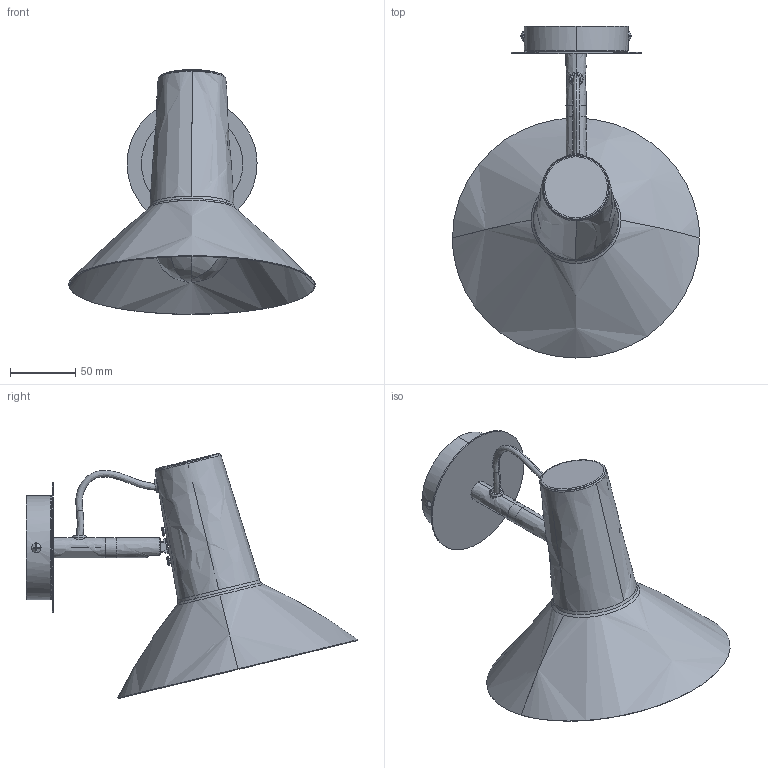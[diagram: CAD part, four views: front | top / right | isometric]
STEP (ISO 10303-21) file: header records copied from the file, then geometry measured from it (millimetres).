
FILE_DESCRIPTION (( 'STEP AP214' ), '1' );
FILE_NAME ('HUDO_A1366.STEP', '2026-06-16T14:45:48', ( '' ), ( '' ), 'SwSTEP 2.0', 'SolidWorks 2023', '' );
FILE_SCHEMA (( 'AUTOMOTIVE_DESIGN' ));
Length unit declared in the file: millimetre
Products named in the file (1): HUDO_A1366
Bounding box: 190 x 255.17 x 188.29 mm (x, y, z)
Surface area: 180172.9 mm2 (no closed solid volume)
Topology: 0 solids, 19 shells, 423 faces, 1072 edges, 680 vertices
Faces by surface type: bspline 295, plane 128
Entity records: 20435 total; most frequent: CARTESIAN_POINT 13946, ORIENTED_EDGE 2119, EDGE_CURVE 1068, VERTEX_POINT 680, B_SPLINE_CURVE_WITH_KNOTS 560, EDGE_LOOP 455, FACE_OUTER_BOUND 423, ADVANCED_FACE 423
